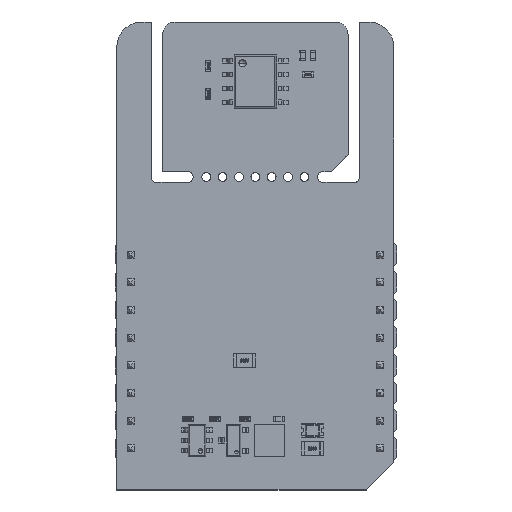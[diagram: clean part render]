
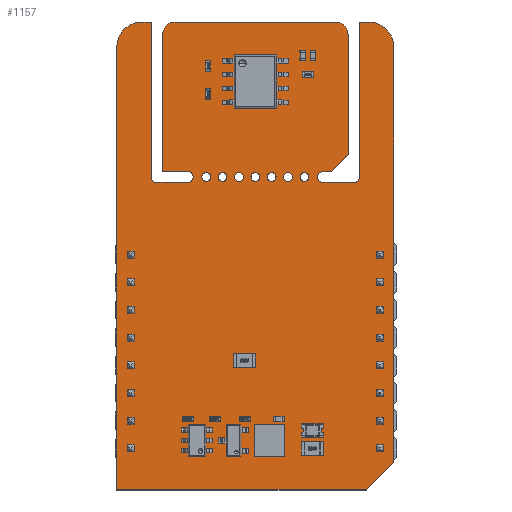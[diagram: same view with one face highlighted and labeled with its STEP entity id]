
A CAD part, top view. The second image highlights one B-rep face of the part: STEP entity #1157.
In plain terms, the highlighted planar face has unit normal (0, 0, 1).
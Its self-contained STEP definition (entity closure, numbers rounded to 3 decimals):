
#120 = VERTEX_POINT('',#121);
#121 = CARTESIAN_POINT('',(1.905,24.8,1.59));
#127 = EDGE_CURVE('',#120,#128,#130,.T.);
#128 = VERTEX_POINT('',#129);
#129 = CARTESIAN_POINT('',(2.305,24.4,1.59));
#130 = CIRCLE('',#131,0.399);
#131 = AXIS2_PLACEMENT_3D('',#132,#133,#134);
#132 = CARTESIAN_POINT('',(2.304,24.799,1.59));
#133 = DIRECTION('',(0.,0.,1.));
#134 = DIRECTION('',(-1.,0.001,0.));
#160 = EDGE_CURVE('',#128,#161,#163,.T.);
#161 = VERTEX_POINT('',#162);
#162 = CARTESIAN_POINT('',(5.23,24.4,1.59));
#163 = LINE('',#164,#165);
#164 = CARTESIAN_POINT('',(2.305,24.4,1.59));
#165 = VECTOR('',#166,1.);
#166 = DIRECTION('',(1.,0.,0.));
#191 = EDGE_CURVE('',#161,#192,#194,.T.);
#192 = VERTEX_POINT('',#193);
#193 = CARTESIAN_POINT('',(5.23,25.4,1.59));
#194 = CIRCLE('',#195,0.5);
#195 = AXIS2_PLACEMENT_3D('',#196,#197,#198);
#196 = CARTESIAN_POINT('',(5.23,24.9,1.59));
#197 = DIRECTION('',(0.,0.,1.));
#198 = DIRECTION('',(-0.,-1.,0.));
#224 = EDGE_CURVE('',#192,#225,#227,.T.);
#225 = VERTEX_POINT('',#226);
#226 = CARTESIAN_POINT('',(2.921,25.4,1.59));
#227 = LINE('',#228,#229);
#228 = CARTESIAN_POINT('',(5.23,25.4,1.59));
#229 = VECTOR('',#230,1.);
#230 = DIRECTION('',(-1.,0.,0.));
#255 = EDGE_CURVE('',#225,#256,#258,.T.);
#256 = VERTEX_POINT('',#257);
#257 = CARTESIAN_POINT('',(2.921,37.973,1.59));
#258 = LINE('',#259,#260);
#259 = CARTESIAN_POINT('',(2.921,25.4,1.59));
#260 = VECTOR('',#261,1.);
#261 = DIRECTION('',(0.,1.,0.));
#286 = EDGE_CURVE('',#256,#287,#289,.T.);
#287 = VERTEX_POINT('',#288);
#288 = CARTESIAN_POINT('',(4.064,39.116,1.59));
#289 = CIRCLE('',#290,1.144);
#290 = AXIS2_PLACEMENT_3D('',#291,#292,#293);
#291 = CARTESIAN_POINT('',(4.065,37.972,1.59));
#292 = DIRECTION('',(0.,0.,-1.));
#293 = DIRECTION('',(-1.,0.001,0.));
#319 = EDGE_CURVE('',#287,#320,#322,.T.);
#320 = VERTEX_POINT('',#321);
#321 = CARTESIAN_POINT('',(18.796,39.116,1.59));
#322 = LINE('',#323,#324);
#323 = CARTESIAN_POINT('',(4.064,39.116,1.59));
#324 = VECTOR('',#325,1.);
#325 = DIRECTION('',(1.,0.,0.));
#350 = EDGE_CURVE('',#320,#351,#353,.T.);
#351 = VERTEX_POINT('',#352);
#352 = CARTESIAN_POINT('',(19.939,37.973,1.59));
#353 = CIRCLE('',#354,1.144);
#354 = AXIS2_PLACEMENT_3D('',#355,#356,#357);
#355 = CARTESIAN_POINT('',(18.795,37.972,1.59));
#356 = DIRECTION('',(0.,0.,-1.));
#357 = DIRECTION('',(0.001,1.,0.));
#383 = EDGE_CURVE('',#351,#384,#386,.T.);
#384 = VERTEX_POINT('',#385);
#385 = CARTESIAN_POINT('',(19.939,26.924,1.59));
#386 = LINE('',#387,#388);
#387 = CARTESIAN_POINT('',(19.939,37.973,1.59));
#388 = VECTOR('',#389,1.);
#389 = DIRECTION('',(0.,-1.,0.));
#414 = EDGE_CURVE('',#384,#415,#417,.T.);
#415 = VERTEX_POINT('',#416);
#416 = CARTESIAN_POINT('',(18.415,25.4,1.59));
#417 = LINE('',#418,#419);
#418 = CARTESIAN_POINT('',(19.939,26.924,1.59));
#419 = VECTOR('',#420,1.);
#420 = DIRECTION('',(-0.707,-0.707,0.));
#445 = EDGE_CURVE('',#415,#446,#448,.T.);
#446 = VERTEX_POINT('',#447);
#447 = CARTESIAN_POINT('',(17.63,25.4,1.59));
#448 = LINE('',#449,#450);
#449 = CARTESIAN_POINT('',(18.415,25.4,1.59));
#450 = VECTOR('',#451,1.);
#451 = DIRECTION('',(-1.,0.,0.));
#476 = EDGE_CURVE('',#446,#477,#479,.T.);
#477 = VERTEX_POINT('',#478);
#478 = CARTESIAN_POINT('',(17.63,24.4,1.59));
#479 = CIRCLE('',#480,0.5);
#480 = AXIS2_PLACEMENT_3D('',#481,#482,#483);
#481 = CARTESIAN_POINT('',(17.63,24.9,1.59));
#482 = DIRECTION('',(0.,-0.,1.));
#483 = DIRECTION('',(0.,1.,0.));
#509 = EDGE_CURVE('',#477,#510,#512,.T.);
#510 = VERTEX_POINT('',#511);
#511 = CARTESIAN_POINT('',(20.555,24.4,1.59));
#512 = LINE('',#513,#514);
#513 = CARTESIAN_POINT('',(17.63,24.4,1.59));
#514 = VECTOR('',#515,1.);
#515 = DIRECTION('',(1.,0.,0.));
#540 = EDGE_CURVE('',#510,#541,#543,.T.);
#541 = VERTEX_POINT('',#542);
#542 = CARTESIAN_POINT('',(20.955,24.8,1.59));
#543 = CIRCLE('',#544,0.399);
#544 = AXIS2_PLACEMENT_3D('',#545,#546,#547);
#545 = CARTESIAN_POINT('',(20.556,24.799,1.59));
#546 = DIRECTION('',(0.,0.,1.));
#547 = DIRECTION('',(-0.001,-1.,0.));
#573 = EDGE_CURVE('',#541,#574,#576,.T.);
#574 = VERTEX_POINT('',#575);
#575 = CARTESIAN_POINT('',(20.955,39.116,1.59));
#576 = LINE('',#577,#578);
#577 = CARTESIAN_POINT('',(20.955,24.8,1.59));
#578 = VECTOR('',#579,1.);
#579 = DIRECTION('',(0.,1.,0.));
#604 = EDGE_CURVE('',#574,#605,#607,.T.);
#605 = VERTEX_POINT('',#606);
#606 = CARTESIAN_POINT('',(21.844,39.116,1.59));
#607 = LINE('',#608,#609);
#608 = CARTESIAN_POINT('',(20.955,39.116,1.59));
#609 = VECTOR('',#610,1.);
#610 = DIRECTION('',(1.,0.,0.));
#635 = EDGE_CURVE('',#605,#636,#638,.T.);
#636 = VERTEX_POINT('',#637);
#637 = CARTESIAN_POINT('',(24.13,36.83,1.59));
#638 = CIRCLE('',#639,2.288);
#639 = AXIS2_PLACEMENT_3D('',#640,#641,#642);
#640 = CARTESIAN_POINT('',(21.842,36.828,1.59));
#641 = DIRECTION('',(0.,0.,-1.));
#642 = DIRECTION('',(0.001,1.,0.));
#668 = EDGE_CURVE('',#636,#669,#671,.T.);
#669 = VERTEX_POINT('',#670);
#670 = CARTESIAN_POINT('',(24.13,-1.27,1.59));
#671 = LINE('',#672,#673);
#672 = CARTESIAN_POINT('',(24.13,36.83,1.59));
#673 = VECTOR('',#674,1.);
#674 = DIRECTION('',(0.,-1.,0.));
#699 = EDGE_CURVE('',#669,#700,#702,.T.);
#700 = VERTEX_POINT('',#701);
#701 = CARTESIAN_POINT('',(21.59,-3.81,1.59));
#702 = LINE('',#703,#704);
#703 = CARTESIAN_POINT('',(24.13,-1.27,1.59));
#704 = VECTOR('',#705,1.);
#705 = DIRECTION('',(-0.707,-0.707,0.));
#730 = EDGE_CURVE('',#700,#731,#733,.T.);
#731 = VERTEX_POINT('',#732);
#732 = CARTESIAN_POINT('',(-1.27,-3.81,1.59));
#733 = LINE('',#734,#735);
#734 = CARTESIAN_POINT('',(21.59,-3.81,1.59));
#735 = VECTOR('',#736,1.);
#736 = DIRECTION('',(-1.,0.,0.));
#761 = EDGE_CURVE('',#731,#762,#764,.T.);
#762 = VERTEX_POINT('',#763);
#763 = CARTESIAN_POINT('',(-1.27,36.83,1.59));
#764 = LINE('',#765,#766);
#765 = CARTESIAN_POINT('',(-1.27,-3.81,1.59));
#766 = VECTOR('',#767,1.);
#767 = DIRECTION('',(0.,1.,0.));
#792 = EDGE_CURVE('',#762,#793,#795,.T.);
#793 = VERTEX_POINT('',#794);
#794 = CARTESIAN_POINT('',(1.016,39.116,1.59));
#795 = CIRCLE('',#796,2.288);
#796 = AXIS2_PLACEMENT_3D('',#797,#798,#799);
#797 = CARTESIAN_POINT('',(1.018,36.828,1.59));
#798 = DIRECTION('',(0.,0.,-1.));
#799 = DIRECTION('',(-1.,0.001,0.));
#825 = EDGE_CURVE('',#793,#826,#828,.T.);
#826 = VERTEX_POINT('',#827);
#827 = CARTESIAN_POINT('',(1.905,39.116,1.59));
#828 = LINE('',#829,#830);
#829 = CARTESIAN_POINT('',(1.016,39.116,1.59));
#830 = VECTOR('',#831,1.);
#831 = DIRECTION('',(1.,0.,0.));
#856 = EDGE_CURVE('',#826,#120,#857,.T.);
#857 = LINE('',#858,#859);
#858 = CARTESIAN_POINT('',(1.905,39.116,1.59));
#859 = VECTOR('',#860,1.);
#860 = DIRECTION('',(0.,-1.,0.));
#880 = VERTEX_POINT('',#881);
#881 = CARTESIAN_POINT('',(10.33,24.9,1.59));
#887 = EDGE_CURVE('',#880,#880,#888,.T.);
#888 = CIRCLE('',#889,0.4);
#889 = AXIS2_PLACEMENT_3D('',#890,#891,#892);
#890 = CARTESIAN_POINT('',(9.93,24.9,1.59));
#891 = DIRECTION('',(0.,0.,1.));
#892 = DIRECTION('',(1.,0.,-0.));
#913 = VERTEX_POINT('',#914);
#914 = CARTESIAN_POINT('',(7.33,24.9,1.59));
#920 = EDGE_CURVE('',#913,#913,#921,.T.);
#921 = CIRCLE('',#922,0.4);
#922 = AXIS2_PLACEMENT_3D('',#923,#924,#925);
#923 = CARTESIAN_POINT('',(6.93,24.9,1.59));
#924 = DIRECTION('',(0.,0.,1.));
#925 = DIRECTION('',(1.,0.,-0.));
#946 = VERTEX_POINT('',#947);
#947 = CARTESIAN_POINT('',(8.83,24.9,1.59));
#953 = EDGE_CURVE('',#946,#946,#954,.T.);
#954 = CIRCLE('',#955,0.4);
#955 = AXIS2_PLACEMENT_3D('',#956,#957,#958);
#956 = CARTESIAN_POINT('',(8.43,24.9,1.59));
#957 = DIRECTION('',(0.,0.,1.));
#958 = DIRECTION('',(1.,0.,-0.));
#979 = VERTEX_POINT('',#980);
#980 = CARTESIAN_POINT('',(14.83,24.9,1.59));
#986 = EDGE_CURVE('',#979,#979,#987,.T.);
#987 = CIRCLE('',#988,0.4);
#988 = AXIS2_PLACEMENT_3D('',#989,#990,#991);
#989 = CARTESIAN_POINT('',(14.43,24.9,1.59));
#990 = DIRECTION('',(0.,0.,1.));
#991 = DIRECTION('',(1.,0.,-0.));
#1012 = VERTEX_POINT('',#1013);
#1013 = CARTESIAN_POINT('',(16.33,24.9,1.59));
#1019 = EDGE_CURVE('',#1012,#1012,#1020,.T.);
#1020 = CIRCLE('',#1021,0.4);
#1021 = AXIS2_PLACEMENT_3D('',#1022,#1023,#1024);
#1022 = CARTESIAN_POINT('',(15.93,24.9,1.59));
#1023 = DIRECTION('',(0.,0.,1.));
#1024 = DIRECTION('',(1.,0.,-0.));
#1045 = VERTEX_POINT('',#1046);
#1046 = CARTESIAN_POINT('',(11.83,24.9,1.59));
#1052 = EDGE_CURVE('',#1045,#1045,#1053,.T.);
#1053 = CIRCLE('',#1054,0.4);
#1054 = AXIS2_PLACEMENT_3D('',#1055,#1056,#1057);
#1055 = CARTESIAN_POINT('',(11.43,24.9,1.59));
#1056 = DIRECTION('',(0.,0.,1.));
#1057 = DIRECTION('',(1.,0.,-0.));
#1078 = VERTEX_POINT('',#1079);
#1079 = CARTESIAN_POINT('',(13.33,24.9,1.59));
#1085 = EDGE_CURVE('',#1078,#1078,#1086,.T.);
#1086 = CIRCLE('',#1087,0.4);
#1087 = AXIS2_PLACEMENT_3D('',#1088,#1089,#1090);
#1088 = CARTESIAN_POINT('',(12.93,24.9,1.59));
#1089 = DIRECTION('',(0.,0.,1.));
#1090 = DIRECTION('',(1.,0.,-0.));
#1157 = ADVANCED_FACE('',(#1158,#1184,#1187,#1190,#1193,#1196,#1199,
    #1202),#1205,.F.);
#1158 = FACE_BOUND('',#1159,.F.);
#1159 = EDGE_LOOP('',(#1160,#1161,#1162,#1163,#1164,#1165,#1166,#1167,
    #1168,#1169,#1170,#1171,#1172,#1173,#1174,#1175,#1176,#1177,#1178,
    #1179,#1180,#1181,#1182,#1183));
#1160 = ORIENTED_EDGE('',*,*,#127,.T.);
#1161 = ORIENTED_EDGE('',*,*,#160,.T.);
#1162 = ORIENTED_EDGE('',*,*,#191,.T.);
#1163 = ORIENTED_EDGE('',*,*,#224,.T.);
#1164 = ORIENTED_EDGE('',*,*,#255,.T.);
#1165 = ORIENTED_EDGE('',*,*,#286,.T.);
#1166 = ORIENTED_EDGE('',*,*,#319,.T.);
#1167 = ORIENTED_EDGE('',*,*,#350,.T.);
#1168 = ORIENTED_EDGE('',*,*,#383,.T.);
#1169 = ORIENTED_EDGE('',*,*,#414,.T.);
#1170 = ORIENTED_EDGE('',*,*,#445,.T.);
#1171 = ORIENTED_EDGE('',*,*,#476,.T.);
#1172 = ORIENTED_EDGE('',*,*,#509,.T.);
#1173 = ORIENTED_EDGE('',*,*,#540,.T.);
#1174 = ORIENTED_EDGE('',*,*,#573,.T.);
#1175 = ORIENTED_EDGE('',*,*,#604,.T.);
#1176 = ORIENTED_EDGE('',*,*,#635,.T.);
#1177 = ORIENTED_EDGE('',*,*,#668,.T.);
#1178 = ORIENTED_EDGE('',*,*,#699,.T.);
#1179 = ORIENTED_EDGE('',*,*,#730,.T.);
#1180 = ORIENTED_EDGE('',*,*,#761,.T.);
#1181 = ORIENTED_EDGE('',*,*,#792,.T.);
#1182 = ORIENTED_EDGE('',*,*,#825,.T.);
#1183 = ORIENTED_EDGE('',*,*,#856,.T.);
#1184 = FACE_BOUND('',#1185,.F.);
#1185 = EDGE_LOOP('',(#1186));
#1186 = ORIENTED_EDGE('',*,*,#887,.T.);
#1187 = FACE_BOUND('',#1188,.F.);
#1188 = EDGE_LOOP('',(#1189));
#1189 = ORIENTED_EDGE('',*,*,#920,.T.);
#1190 = FACE_BOUND('',#1191,.F.);
#1191 = EDGE_LOOP('',(#1192));
#1192 = ORIENTED_EDGE('',*,*,#953,.T.);
#1193 = FACE_BOUND('',#1194,.F.);
#1194 = EDGE_LOOP('',(#1195));
#1195 = ORIENTED_EDGE('',*,*,#986,.T.);
#1196 = FACE_BOUND('',#1197,.F.);
#1197 = EDGE_LOOP('',(#1198));
#1198 = ORIENTED_EDGE('',*,*,#1019,.T.);
#1199 = FACE_BOUND('',#1200,.F.);
#1200 = EDGE_LOOP('',(#1201));
#1201 = ORIENTED_EDGE('',*,*,#1052,.T.);
#1202 = FACE_BOUND('',#1203,.F.);
#1203 = EDGE_LOOP('',(#1204));
#1204 = ORIENTED_EDGE('',*,*,#1085,.T.);
#1205 = PLANE('',#1206);
#1206 = AXIS2_PLACEMENT_3D('',#1207,#1208,#1209);
#1207 = CARTESIAN_POINT('',(11.288,21.814,1.59));
#1208 = DIRECTION('',(-0.,-0.,-1.));
#1209 = DIRECTION('',(-1.,0.,0.));
